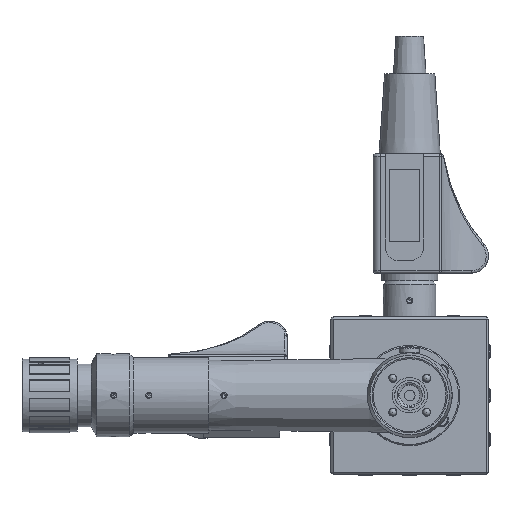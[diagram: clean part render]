
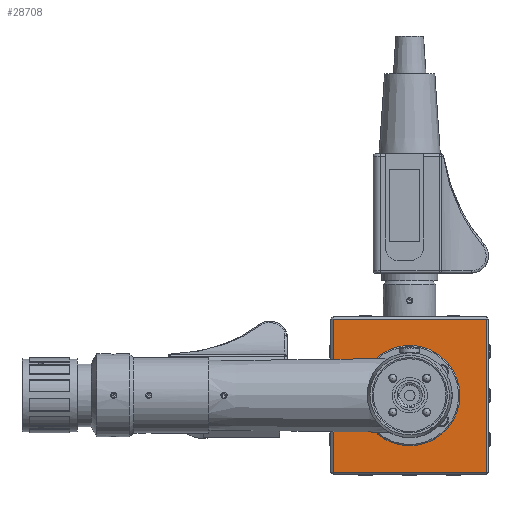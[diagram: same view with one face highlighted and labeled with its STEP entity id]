
A CAD part, top view. The second image highlights one B-rep face of the part: STEP entity #28708.
In plain terms, the highlighted planar face has unit normal (0, 0, 1).
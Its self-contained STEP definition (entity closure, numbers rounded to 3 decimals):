
#1526=LINE('',#42909,#3217);
#1538=LINE('',#42932,#3229);
#1540=LINE('',#42935,#3231);
#1542=LINE('',#42938,#3233);
#3217=VECTOR('',#34346,10.);
#3229=VECTOR('',#34368,10.);
#3231=VECTOR('',#34372,10.);
#3233=VECTOR('',#34376,10.);
#4874=PLANE('',#30768);
#5926=FACE_BOUND('',#8986,.T.);
#7028=FACE_OUTER_BOUND('',#8985,.T.);
#8985=EDGE_LOOP('',(#19740,#19741,#19742,#19743));
#8986=EDGE_LOOP('',(#19744));
#11871=CIRCLE('',#30753,20.);
#13348=VERTEX_POINT('',#42885);
#13350=VERTEX_POINT('',#42889);
#13353=VERTEX_POINT('',#42899);
#13356=VERTEX_POINT('',#42912);
#13359=VERTEX_POINT('',#42922);
#16000=EDGE_CURVE('',#13348,#13348,#11871,.T.);
#16012=EDGE_CURVE('',#13350,#13353,#1526,.T.);
#16024=EDGE_CURVE('',#13353,#13359,#1538,.T.);
#16026=EDGE_CURVE('',#13359,#13356,#1540,.T.);
#16028=EDGE_CURVE('',#13356,#13350,#1542,.T.);
#19740=ORIENTED_EDGE('',*,*,#16012,.F.);
#19741=ORIENTED_EDGE('',*,*,#16028,.F.);
#19742=ORIENTED_EDGE('',*,*,#16026,.F.);
#19743=ORIENTED_EDGE('',*,*,#16024,.F.);
#19744=ORIENTED_EDGE('',*,*,#16000,.F.);
#28708=ADVANCED_FACE('',(#7028,#5926),#4874,.T.);
#30753=AXIS2_PLACEMENT_3D('',#42886,#34323,#34324);
#30768=AXIS2_PLACEMENT_3D('',#42941,#34381,#34382);
#34323=DIRECTION('center_axis',(0.,0.,
1.));
#34324=DIRECTION('ref_axis',(0.,-1.,0.));
#34346=DIRECTION('',(-1.,0.,0.));
#34368=DIRECTION('',(0.,1.,0.));
#34372=DIRECTION('',(1.,0.,0.));
#34376=DIRECTION('',(0.,-1.,0.));
#34381=DIRECTION('center_axis',(0.,0.,
1.));
#34382=DIRECTION('ref_axis',(0.,1.,0.));
#42885=CARTESIAN_POINT('',(2.318,26.807,13.5));
#42886=CARTESIAN_POINT('Origin',(2.318,6.807,13.5));
#42889=CARTESIAN_POINT('',(32.818,-23.693,13.5));
#42899=CARTESIAN_POINT('',(-28.182,-23.693,13.5));
#42909=CARTESIAN_POINT('',(-13.432,-23.693,13.5));
#42912=CARTESIAN_POINT('',(32.818,37.307,13.5));
#42922=CARTESIAN_POINT('',(-28.182,37.307,13.5));
#42932=CARTESIAN_POINT('',(-28.182,22.557,13.5));
#42935=CARTESIAN_POINT('',(18.068,37.307,13.5));
#42938=CARTESIAN_POINT('',(32.818,-8.943,13.5));
#42941=CARTESIAN_POINT('Origin',(2.318,6.807,13.5));
